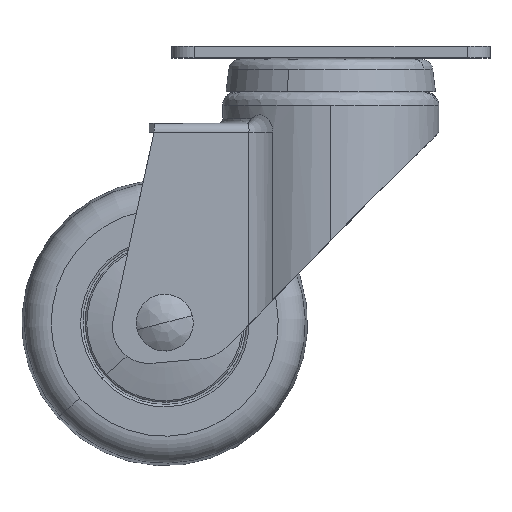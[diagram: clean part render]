
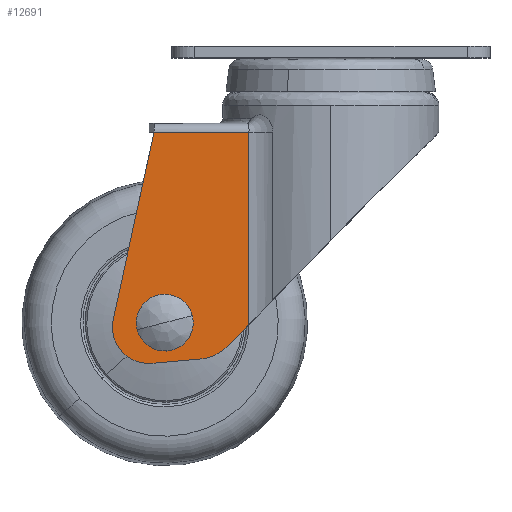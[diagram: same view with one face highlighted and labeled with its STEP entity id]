
A CAD part, top view. The second image highlights one B-rep face of the part: STEP entity #12691.
In plain terms, the highlighted planar face has unit normal (0, 0, 1) as drawn and (0, 0, -1) by its records, which use the part's own axes.
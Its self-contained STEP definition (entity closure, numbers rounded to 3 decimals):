
#1301 = VECTOR ( 'NONE', #70148, 1000. ) ;
#1847 = CARTESIAN_POINT ( 'NONE',  ( -86.792, -17.41, -18.5 ) ) ;
#2389 = CARTESIAN_POINT ( 'NONE',  ( 0., -57.255, -18.5 ) ) ;
#4926 = CARTESIAN_POINT ( 'NONE',  ( -75.221, -57.255, -18.5 ) ) ;
#5920 = CARTESIAN_POINT ( 'NONE',  ( -75.221, 0., -18.5 ) ) ;
#6519 = FACE_BOUND ( 'NONE', #21493, .T. ) ;
#6876 = EDGE_CURVE ( 'NONE', #54992, #57037, #33396, .T. ) ;
#7112 = CARTESIAN_POINT ( 'NONE',  ( 0., 0., -18.5 ) ) ;
#9157 = EDGE_CURVE ( 'NONE', #60310, #22154, #66848, .T. ) ;
#9395 = DIRECTION ( 'NONE',  ( 0.996, -0.088, 0. ) ) ;
#10902 = DIRECTION ( 'NONE',  ( 0., 0., 1. ) ) ;
#10908 = DIRECTION ( 'NONE',  ( 1., 0., 0. ) ) ;
#10980 = EDGE_CURVE ( 'NONE', #38432, #50594, #61642, .T. ) ;
#11565 = CARTESIAN_POINT ( 'NONE',  ( -104.962, -16.197, -18.5 ) ) ;
#12691 = ADVANCED_FACE ( 'NONE', ( #6519, #16989 ), #60838, .F. ) ;
#13459 = EDGE_CURVE ( 'NONE', #70800, #27295, #48293, .T. ) ;
#13957 = ORIENTED_EDGE ( 'NONE', *, *, #17107, .F. ) ;
#14162 = EDGE_CURVE ( 'NONE', #60310, #61229, #84914, .T. ) ;
#15608 = VECTOR ( 'NONE', #83111, 1000. ) ;
#16989 = FACE_OUTER_BOUND ( 'NONE', #70273, .T. ) ;
#17107 = EDGE_CURVE ( 'NONE', #54992, #27295, #25291, .T. ) ;
#17659 = ORIENTED_EDGE ( 'NONE', *, *, #42163, .F. ) ;
#20347 = CARTESIAN_POINT ( 'NONE',  ( -89.593, -15.455, -18.5 ) ) ;
#20525 = DIRECTION ( 'NONE',  ( 0., 0., 1. ) ) ;
#21493 = EDGE_LOOP ( 'NONE', ( #39266, #54327 ) ) ;
#22154 = VERTEX_POINT ( 'NONE', #11565 ) ;
#24989 = AXIS2_PLACEMENT_3D ( 'NONE', #1847, #10902, #50303 ) ;
#25291 = CIRCLE ( 'NONE', #24989, 10. ) ;
#25969 = DIRECTION ( 'NONE',  ( 0., 0., 1. ) ) ;
#27295 = VERTEX_POINT ( 'NONE', #43817 ) ;
#28054 = CIRCLE ( 'NONE', #70005, 8. ) ;
#30620 = CARTESIAN_POINT ( 'NONE',  ( -95.989, -57.255, -18.5 ) ) ;
#31150 = LINE ( 'NONE', #5920, #60407 ) ;
#31630 = AXIS2_PLACEMENT_3D ( 'NONE', #7112, #20525, #53821 ) ;
#31851 = CARTESIAN_POINT ( 'NONE',  ( -93.643, -15.455, -18.5 ) ) ;
#32447 = CARTESIAN_POINT ( 'NONE',  ( -75.221, -14.953, -18.5 ) ) ;
#33299 = AXIS2_PLACEMENT_3D ( 'NONE', #31851, #78615, #38576 ) ;
#33396 = LINE ( 'NONE', #37536, #15608 ) ;
#35679 = DIRECTION ( 'NONE',  ( -0.214, 0.977, 0. ) ) ;
#36585 = CARTESIAN_POINT ( 'NONE',  ( -93.643, -15.455, -18.5 ) ) ;
#37536 = CARTESIAN_POINT ( 'NONE',  ( -79.632, -10.429, -18.5 ) ) ;
#38432 = VERTEX_POINT ( 'NONE', #42335 ) ;
#38576 = DIRECTION ( 'NONE',  ( 1., 0., 0. ) ) ;
#39266 = ORIENTED_EDGE ( 'NONE', *, *, #53546, .T. ) ;
#42163 = EDGE_CURVE ( 'NONE', #61229, #57037, #31150, .T. ) ;
#42335 = CARTESIAN_POINT ( 'NONE',  ( -97.693, -15.455, -18.5 ) ) ;
#43817 = CARTESIAN_POINT ( 'NONE',  ( -85.921, -7.448, -18.5 ) ) ;
#46389 = CARTESIAN_POINT ( 'NONE',  ( -96.45, -6.519, -18.5 ) ) ;
#46892 = EDGE_CURVE ( 'NONE', #70800, #22154, #28054, .T. ) ;
#48293 = LINE ( 'NONE', #56407, #85985 ) ;
#49249 = AXIS2_PLACEMENT_3D ( 'NONE', #36585, #83645, #10908 ) ;
#50303 = DIRECTION ( 'NONE',  ( 1., 0., 0. ) ) ;
#50594 = VERTEX_POINT ( 'NONE', #20347 ) ;
#51947 = CARTESIAN_POINT ( 'NONE',  ( -97.147, -14.489, -18.5 ) ) ;
#53546 = EDGE_CURVE ( 'NONE', #50594, #38432, #66636, .T. ) ;
#53821 = DIRECTION ( 'NONE',  ( 1., 0., 0. ) ) ;
#54327 = ORIENTED_EDGE ( 'NONE', *, *, #10980, .T. ) ;
#54992 = VERTEX_POINT ( 'NONE', #80947 ) ;
#56407 = CARTESIAN_POINT ( 'NONE',  ( -96.45, -6.519, -18.5 ) ) ;
#57037 = VERTEX_POINT ( 'NONE', #32447 ) ;
#60310 = VERTEX_POINT ( 'NONE', #30620 ) ;
#60407 = VECTOR ( 'NONE', #85964, 1000. ) ;
#60661 = ORIENTED_EDGE ( 'NONE', *, *, #13459, .T. ) ;
#60838 = PLANE ( 'NONE',  #31630 ) ;
#61229 = VERTEX_POINT ( 'NONE', #4926 ) ;
#61642 = CIRCLE ( 'NONE', #33299, 4.05 ) ;
#61986 = CARTESIAN_POINT ( 'NONE',  ( -95.989, -57.255, -18.5 ) ) ;
#63675 = ORIENTED_EDGE ( 'NONE', *, *, #9157, .T. ) ;
#65836 = VECTOR ( 'NONE', #35679, 1000. ) ;
#66636 = CIRCLE ( 'NONE', #49249, 4.05 ) ;
#66848 = LINE ( 'NONE', #61986, #65836 ) ;
#70005 = AXIS2_PLACEMENT_3D ( 'NONE', #51947, #25969, #86152 ) ;
#70148 = DIRECTION ( 'NONE',  ( 1., 0., 0. ) ) ;
#70273 = EDGE_LOOP ( 'NONE', ( #85323, #60661, #13957, #83457, #17659, #79455, #63675 ) ) ;
#70800 = VERTEX_POINT ( 'NONE', #46389 ) ;
#78615 = DIRECTION ( 'NONE',  ( 0., 0., 1. ) ) ;
#79455 = ORIENTED_EDGE ( 'NONE', *, *, #14162, .F. ) ;
#80947 = CARTESIAN_POINT ( 'NONE',  ( -79.632, -10.429, -18.5 ) ) ;
#83111 = DIRECTION ( 'NONE',  ( 0.698, -0.716, 0. ) ) ;
#83457 = ORIENTED_EDGE ( 'NONE', *, *, #6876, .T. ) ;
#83645 = DIRECTION ( 'NONE',  ( 0., 0., 1. ) ) ;
#84914 = LINE ( 'NONE', #2389, #1301 ) ;
#85323 = ORIENTED_EDGE ( 'NONE', *, *, #46892, .F. ) ;
#85964 = DIRECTION ( 'NONE',  ( 0., 1., 0. ) ) ;
#85985 = VECTOR ( 'NONE', #9395, 1000. ) ;
#86152 = DIRECTION ( 'NONE',  ( 1., 0., 0. ) ) ;
